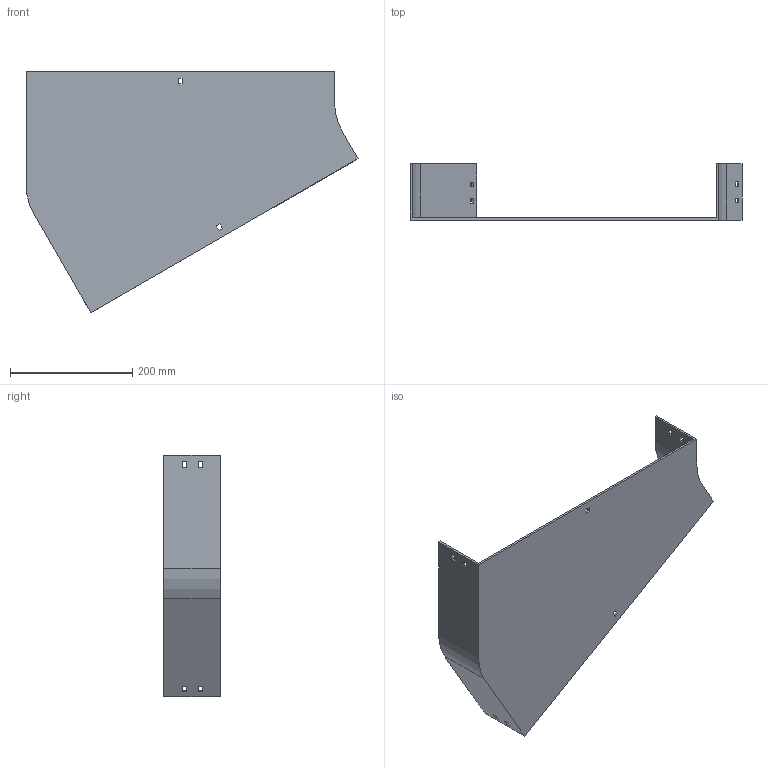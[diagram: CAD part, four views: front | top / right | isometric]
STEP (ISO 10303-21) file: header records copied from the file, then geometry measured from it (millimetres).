
FILE_DESCRIPTION (( 'STEP AP214' ), '1' );
FILE_NAME ('12B1I500.step', '2025-02-21T09:36:25', ( '' ), ( '' ), 'SwSTEP 2.0', 'SolidWorks 2023', '' );
FILE_SCHEMA (( 'AUTOMOTIVE_DESIGN' ));
Length unit declared in the file: millimetre
Products named in the file (1): 12B1I500
Bounding box: 542.4 x 92.5 x 395.3 mm (x, y, z)
Volume: 685838.9 mm3; surface area: 399862.8 mm2
Topology: 1 solids, 1 shells, 58 faces, 168 edges, 112 vertices
Faces by surface type: plane 54, cylinder 4
Entity records: 1943 total; most frequent: CARTESIAN_POINT 339, ORIENTED_EDGE 336, DIRECTION 294, EDGE_CURVE 168, LINE 160, VECTOR 160, VERTEX_POINT 112, EDGE_LOOP 78
